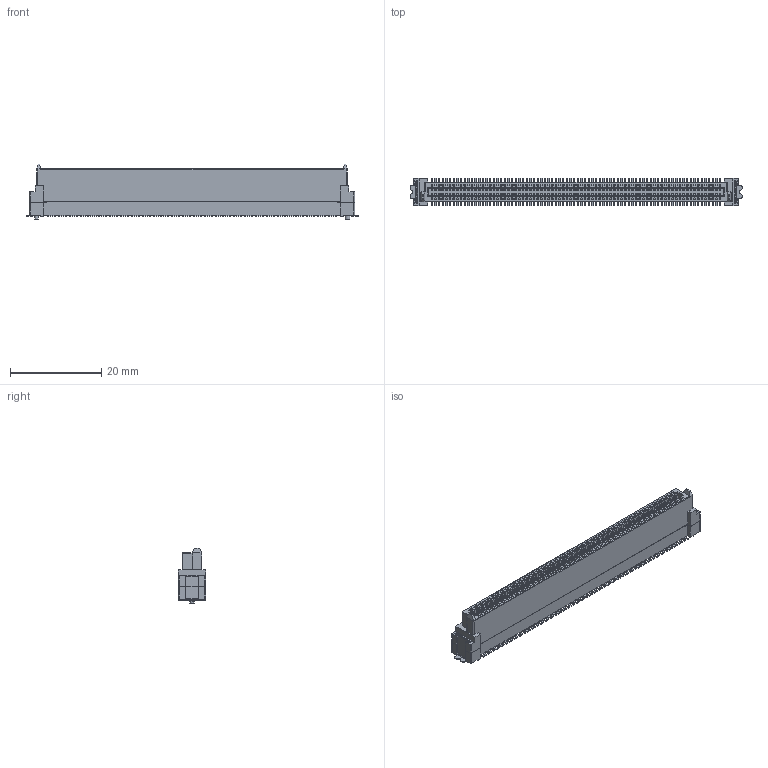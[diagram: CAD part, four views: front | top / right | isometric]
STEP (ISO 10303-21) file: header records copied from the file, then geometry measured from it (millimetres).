
FILE_DESCRIPTION(('CATIA V5 STEP Exchange'),'2;1');
FILE_NAME('F:\黄富鸿\板对板\PBB08D\母座\H10.4\HC-PBB08D-1-160-F-H10.4-XX-R-P-06 (BTB0.8 单槽 D型母座 立贴 带柱 编带)-HCTL.stp','2026-02-04T06:31:01+00:00',('none'),('none'),'CATIA Version 5 Release 20 GA (IN-10)','CATIA V5 STEP AP203','none');
FILE_SCHEMA(('CONFIG_CONTROL_DESIGN'));
Products named in the file (1): Part1
Bounding box: 72.8 x 6 x 12.15 mm (x, y, z)
Volume: 1798.8 mm3; surface area: 9588.9 mm2
Topology: 164 solids, 164 shells, 8069 faces, 24000 edges, 15780 vertices
Faces by surface type: plane 6089, cylinder 1974, cone 4, torus 2
Entity records: 250521 total; most frequent: ORIENTED_EDGE 48000, CARTESIAN_POINT 45077, DIRECTION 34376, EDGE_CURVE 24000, VECTOR 20018, LINE 20018, VERTEX_POINT 15780, AXIS2_PLACEMENT_3D 9151
